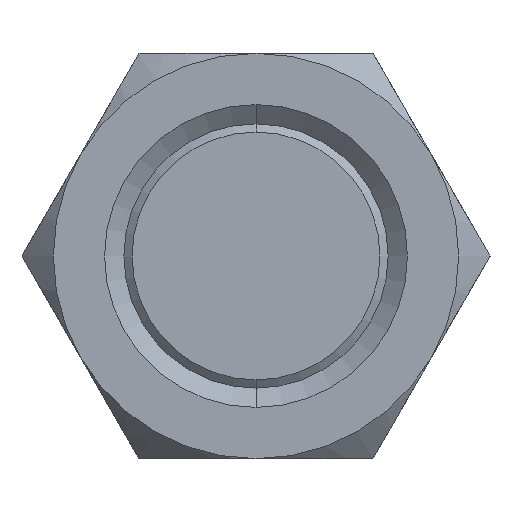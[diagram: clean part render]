
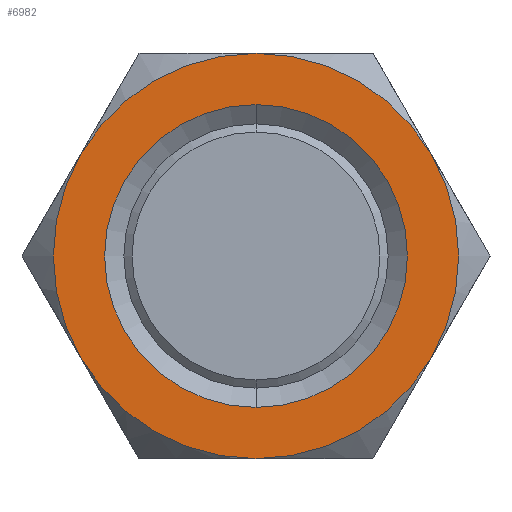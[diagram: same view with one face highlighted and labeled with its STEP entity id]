
A CAD part, front view. The second image highlights one B-rep face of the part: STEP entity #6982.
In plain terms, the highlighted planar face has unit normal (0, -1, 0).
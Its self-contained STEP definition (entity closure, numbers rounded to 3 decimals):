
#6928 = VERTEX_POINT ( 'NONE', #23559 ) ;
#6930 = EDGE_CURVE ( 'NONE', #6928, #6931, #23558, .T. ) ;
#6931 = VERTEX_POINT ( 'NONE', #23619 ) ;
#6965 = ORIENTED_EDGE ( 'NONE', *, *, #6966, .F. ) ;
#6966 = EDGE_CURVE ( 'NONE', #6967, #15635, #23625, .T. ) ;
#6967 = VERTEX_POINT ( 'NONE', #23667 ) ;
#6968 = ORIENTED_EDGE ( 'NONE', *, *, #6969, .T. ) ;
#6969 = EDGE_CURVE ( 'NONE', #6967, #6970, #23666, .T. ) ;
#6970 = VERTEX_POINT ( 'NONE', #23661 ) ;
#6971 = ORIENTED_EDGE ( 'NONE', *, *, #6972, .F. ) ;
#6972 = EDGE_CURVE ( 'NONE', #6987, #6970, #23660, .T. ) ;
#6973 = EDGE_LOOP ( 'NONE', ( #6974, #6976 ) ) ;
#6974 = ORIENTED_EDGE ( 'NONE', *, *, #6975, .F. ) ;
#6975 = EDGE_CURVE ( 'NONE', #6931, #6928, #23655, .T. ) ;
#6976 = ORIENTED_EDGE ( 'NONE', *, *, #6930, .F. ) ;
#6982 = ADVANCED_FACE ( 'NONE', ( #23709, #23708 ), #23707, .F. ) ;
#6983 = EDGE_LOOP ( 'NONE', ( #6984, #6988, #6991, #6965, #6968, #6971 ) ) ;
#6984 = ORIENTED_EDGE ( 'NONE', *, *, #6985, .F. ) ;
#6985 = EDGE_CURVE ( 'NONE', #6986, #6987, #23701, .T. ) ;
#6986 = VERTEX_POINT ( 'NONE', #23697 ) ;
#6987 = VERTEX_POINT ( 'NONE', #23696 ) ;
#6988 = ORIENTED_EDGE ( 'NONE', *, *, #6989, .F. ) ;
#6989 = EDGE_CURVE ( 'NONE', #6990, #6986, #23695, .T. ) ;
#6990 = VERTEX_POINT ( 'NONE', #23690 ) ;
#6991 = ORIENTED_EDGE ( 'NONE', *, *, #6992, .F. ) ;
#6992 = EDGE_CURVE ( 'NONE', #15635, #6990, #23689, .T. ) ;
#15635 = VERTEX_POINT ( 'NONE', #32829 ) ;
#23557 = AXIS2_PLACEMENT_3D ( 'NONE', #23622, #23621, #23620 ) ;
#23558 = CIRCLE ( 'NONE', #23557, 17.186 ) ;
#23559 = CARTESIAN_POINT ( 'NONE',  ( 0., 0., 17.186 ) ) ;
#23619 = CARTESIAN_POINT ( 'NONE',  ( 0., 0., -17.186 ) ) ;
#23620 = DIRECTION ( 'NONE',  ( 0., 0., -1. ) ) ;
#23621 = DIRECTION ( 'NONE',  ( 0., -1., 0. ) ) ;
#23622 = CARTESIAN_POINT ( 'NONE',  ( 0., 0., 0. ) ) ;
#23625 = CIRCLE ( 'NONE', #23671, 23. ) ;
#23651 = DIRECTION ( 'NONE',  ( 0., 0., -1. ) ) ;
#23652 = DIRECTION ( 'NONE',  ( 0., -1., 0. ) ) ;
#23653 = CARTESIAN_POINT ( 'NONE',  ( 0., 0., 0. ) ) ;
#23654 = AXIS2_PLACEMENT_3D ( 'NONE', #23653, #23652, #23651 ) ;
#23655 = CIRCLE ( 'NONE', #23654, 17.186 ) ;
#23656 = DIRECTION ( 'NONE',  ( 0., 0., 1. ) ) ;
#23657 = DIRECTION ( 'NONE',  ( 0., 1., 0. ) ) ;
#23658 = CARTESIAN_POINT ( 'NONE',  ( 0., 0., 0. ) ) ;
#23659 = AXIS2_PLACEMENT_3D ( 'NONE', #23658, #23657, #23656 ) ;
#23660 = CIRCLE ( 'NONE', #23659, 23. ) ;
#23661 = CARTESIAN_POINT ( 'NONE',  ( 19.919, 0., -11.5 ) ) ;
#23662 = DIRECTION ( 'NONE',  ( 0., 0., -1. ) ) ;
#23663 = DIRECTION ( 'NONE',  ( 0., -1., 0. ) ) ;
#23664 = CARTESIAN_POINT ( 'NONE',  ( 0., 0., 0. ) ) ;
#23665 = AXIS2_PLACEMENT_3D ( 'NONE', #23664, #23663, #23662 ) ;
#23666 = CIRCLE ( 'NONE', #23665, 23. ) ;
#23667 = CARTESIAN_POINT ( 'NONE',  ( 0., 0., -23. ) ) ;
#23668 = DIRECTION ( 'NONE',  ( 0., 0., 1. ) ) ;
#23669 = DIRECTION ( 'NONE',  ( 0., 1., 0. ) ) ;
#23670 = CARTESIAN_POINT ( 'NONE',  ( 0., 0., 0. ) ) ;
#23671 = AXIS2_PLACEMENT_3D ( 'NONE', #23670, #23669, #23668 ) ;
#23685 = DIRECTION ( 'NONE',  ( 0., 0., 1. ) ) ;
#23686 = DIRECTION ( 'NONE',  ( 0., 1., 0. ) ) ;
#23687 = CARTESIAN_POINT ( 'NONE',  ( 0., 0., 0. ) ) ;
#23688 = AXIS2_PLACEMENT_3D ( 'NONE', #23687, #23686, #23685 ) ;
#23689 = CIRCLE ( 'NONE', #23688, 23. ) ;
#23690 = CARTESIAN_POINT ( 'NONE',  ( -19.919, 0., 11.5 ) ) ;
#23691 = DIRECTION ( 'NONE',  ( 0., 0., 1. ) ) ;
#23692 = DIRECTION ( 'NONE',  ( 0., 1., 0. ) ) ;
#23693 = CARTESIAN_POINT ( 'NONE',  ( 0., 0., 0. ) ) ;
#23694 = AXIS2_PLACEMENT_3D ( 'NONE', #23693, #23692, #23691 ) ;
#23695 = CIRCLE ( 'NONE', #23694, 23. ) ;
#23696 = CARTESIAN_POINT ( 'NONE',  ( 19.919, 0., 11.5 ) ) ;
#23697 = CARTESIAN_POINT ( 'NONE',  ( 0., 0., 23. ) ) ;
#23698 = DIRECTION ( 'NONE',  ( 0., 0., 1. ) ) ;
#23699 = DIRECTION ( 'NONE',  ( 0., 1., 0. ) ) ;
#23700 = AXIS2_PLACEMENT_3D ( 'NONE', #23705, #23699, #23698 ) ;
#23701 = CIRCLE ( 'NONE', #23700, 23. ) ;
#23702 = DIRECTION ( 'NONE',  ( 0., 0., 1. ) ) ;
#23703 = DIRECTION ( 'NONE',  ( 0., 1., 0. ) ) ;
#23704 = CARTESIAN_POINT ( 'NONE',  ( 26.558, 0., 0. ) ) ;
#23705 = CARTESIAN_POINT ( 'NONE',  ( 0., 0., 0. ) ) ;
#23706 = AXIS2_PLACEMENT_3D ( 'NONE', #23704, #23703, #23702 ) ;
#23707 = PLANE ( 'NONE',  #23706 ) ;
#23708 = FACE_BOUND ( 'NONE', #6973, .T. ) ;
#23709 = FACE_OUTER_BOUND ( 'NONE', #6983, .T. ) ;
#32829 = CARTESIAN_POINT ( 'NONE',  ( -19.919, 0., -11.5 ) ) ;
